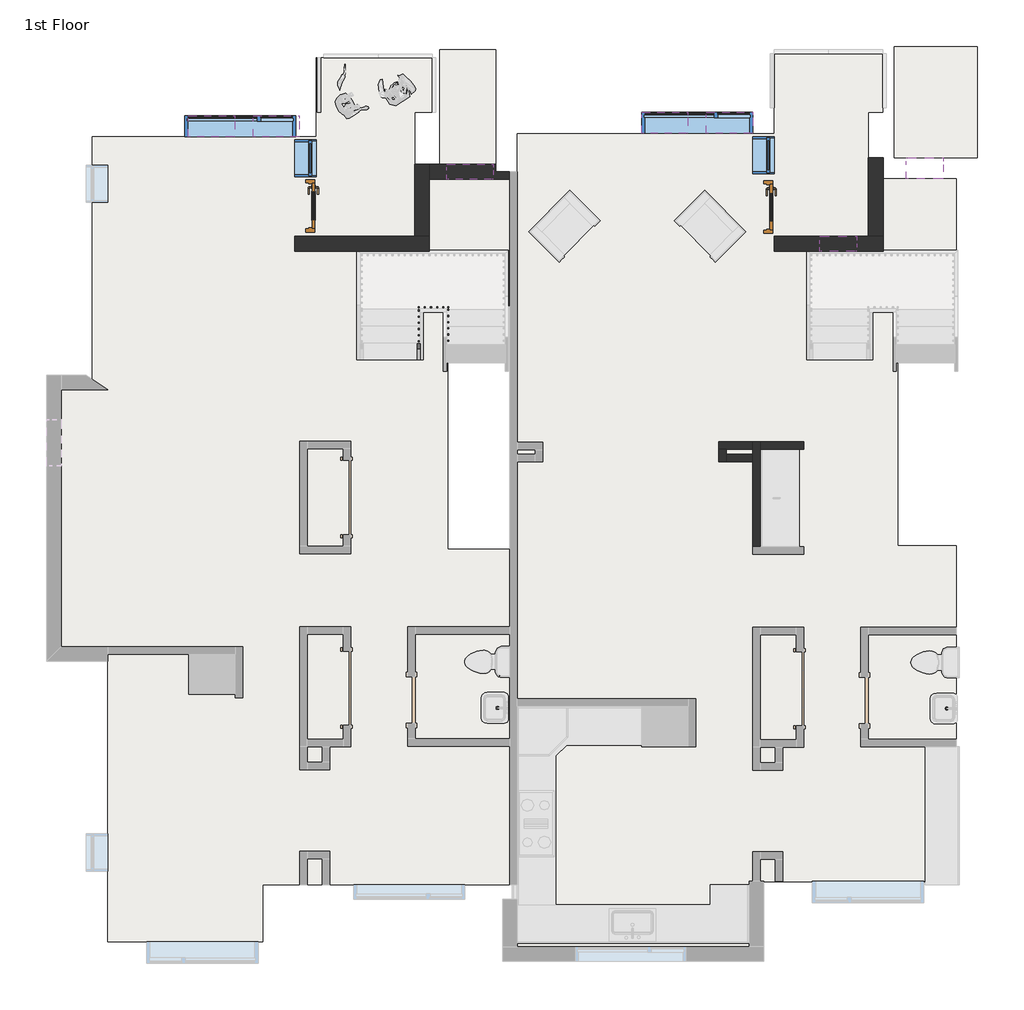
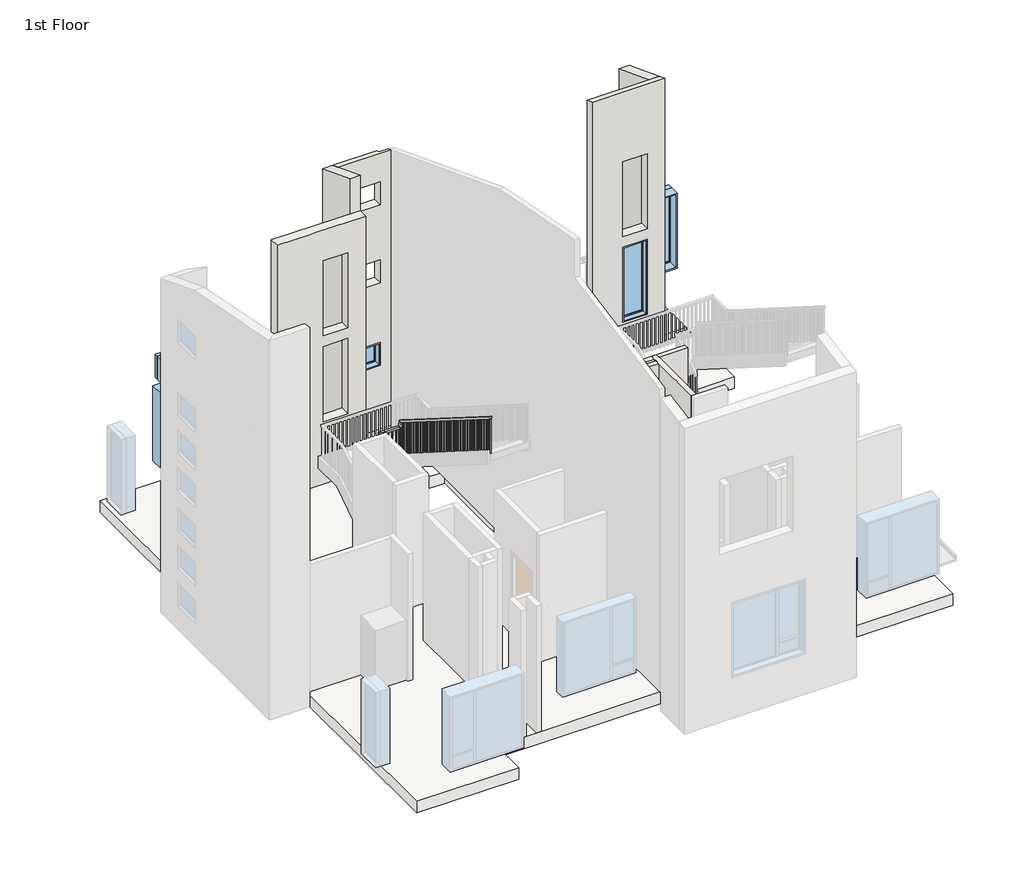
# One storey, part 2 of 6: 11 windows, 10 walls, 2 doors, 2 roofs, 1 railing, 1 slab.
"""IFC4 building model written with IfcOpenShell, lengths in millimetres."""

from ifc_helpers import new_model, si_unit, frame, origin, origin_with_axes, place, context, project, spatial, polyline, outline, extrude, faceted_brep, transform, mapped, element, save
from components import door_00adfaa7, window_8bf192ed, window_b6feeaa8, window_2f0d178e, window_b1c1038b, window_8c170f25, window_03925a3a, window_7b40078c

model = new_model("IFC4")

# Units and contexts
model_context = context("Model", 3, world=origin())
ifc_project = project(units=[si_unit("LENGTHUNIT", "METRE", prefix="MILLI")], contexts=[model_context])

# Site, building, storey
site = spatial("IfcSite", under=ifc_project)
building = spatial("IfcBuilding", under=site)
storey = spatial("IfcBuildingStorey", under=building, Name="1st Floor", Elevation=0.0)

# Doors
placement = place(None, origin())
door_shape = door_00adfaa7(model_context)
element("IfcDoor", 1, ObjectType="Door-Passage-Single-Full_Lite : 30\" x 84\"", at=placement, inside=storey, context=model_context, shape_type="MappedRepresentation", body=[
    mapped(door_shape, transform((2467.5053219, 5235.7563085, 0.0), x_axis=(0.0, -1.0, 0.0), y_axis=(1.0, 0.0, 0.0), z_axis=(0.0, 0.0, 1.0))),
])
element("IfcDoor", 2, ObjectType="Door-Passage-Single-Full_Lite : 30\" x 84\"", at=placement, inside=storey, context=model_context, shape_type="MappedRepresentation", body=[
    mapped(door_shape, transform((-5065.5821781, 5257.9813085, 0.0), x_axis=(0.0, -1.0, 0.0), y_axis=(1.0, 0.0, 0.0), z_axis=(0.0, 0.0, 1.0))),
])

# Railing
element("IfcRailing", 3, ObjectType="Handrail - Rectangular", at=placement, inside=storey, context=model_context, shape_type="SolidModel", body=[
    faceted_brep([(-3224.3663287, 2721.6563085, 1090.8631579), (-3224.3663287, 2721.6563085, 1030.7795781), (-3173.5663287, 2721.6563085, 1030.7795781), (-3173.5663287, 2721.6563085, 1090.8631579), (-3224.3663287, 3483.6563085, 1572.1263158), (-3224.3663287, 3534.4563085, 1544.1269465), (-3173.5663287, 3534.4563085, 1544.1269465), (-3173.5663287, 3483.6563085, 1572.1263158), (-3224.3663287, 3483.6563085, 1620.2526316), (-3224.3663287, 3534.4563085, 1569.4526316), (-3173.5663287, 3534.4563085, 1569.4526316), (-3173.5663287, 3483.6563085, 1620.2526316), (-3224.3663287, 3610.6563085, 1620.2526316), (-3224.3663287, 3610.6563085, 1569.4526316), (-3173.5663287, 3559.8563085, 1569.4526316), (-3173.5663287, 3559.8563085, 1620.2526316), (-3097.3663287, 3610.6563085, 1620.2526316), (-3097.3663287, 3610.6563085, 1569.4526316), (-3097.3663287, 3559.8563085, 1569.4526316), (-3097.3663287, 3559.8563085, 1620.2526316), (-2688.9571781, 3610.6563085, 1620.2526316), (-2688.9571781, 3559.8563085, 1620.2526316), (-2688.9571781, 3559.8563085, 1569.4526316), (-2688.9571781, 3610.6563085, 1569.4526316)], [[[0, 1, 2, 3]], [[1, 0, 4, 5]], [[2, 1, 5, 6]], [[3, 2, 6, 7]], [[0, 3, 7, 4]], [[5, 4, 8, 9]], [[6, 5, 9, 10]], [[7, 6, 10, 11]], [[4, 7, 11, 8]], [[9, 8, 12, 13]], [[10, 9, 13, 14]], [[11, 10, 14, 15]], [[8, 11, 15, 12]], [[13, 12, 16, 17]], [[14, 13, 17, 18]], [[15, 14, 18, 19]], [[12, 15, 19, 16]], [[20, 21, 22, 23]], [[17, 16, 20, 23]], [[18, 17, 23, 22]], [[19, 18, 22, 21]], [[16, 19, 21, 20]]]),
    faceted_brep([(-2688.9571781, 3585.2563085, 1620.2526316), (-2688.9571781, 3535.6297104, 1609.3971833), (-2739.7571781, 3535.6297104, 1609.3971833), (-2739.7571781, 3585.2563085, 1620.2526316), (-2688.9571781, 3546.6563085, 1796.7157895), (-2688.9571781, 3501.5690485, 1765.1083739), (-2739.7571781, 3501.5690485, 1765.1083739), (-2739.7571781, 3546.6563085, 1796.7157895), (-2688.9571781, -364.9436915, 4267.2), (-2739.7571781, -364.9436915, 4267.2), (-2739.7571781, -364.9436915, 4207.1164202), (-2688.9571781, -364.9436915, 4207.1164202)], [[[0, 1, 2, 3]], [[1, 0, 4, 5]], [[2, 1, 5, 6]], [[3, 2, 6, 7]], [[0, 3, 7, 4]], [[8, 9, 10, 11]], [[5, 4, 8, 11]], [[6, 5, 11, 10]], [[7, 6, 10, 9]], [[4, 7, 9, 8]]]),
    extrude(outline(polyline([(-323.6686915, 4181.0479991), (-304.6186915, 4169.0164202), (-304.6186915, 3176.3368421), (-323.6686915, 3176.3368421), (-323.6686915, 4181.0479991)])), frame((-2723.8821781, 0.0, 0.0), z_axis=(1.0, 0.0, 0.0), x_axis=(0.0, 1.0, 0.0)), (0.0, 0.0, 1.0), 19.05),
    extrude(outline(polyline([(-222.0686915, 4116.8795781), (-203.0186915, 4104.8479991), (-203.0186915, 3176.3368421), (-222.0686915, 3176.3368421), (-222.0686915, 4116.8795781)])), frame((-2723.8821781, 0.0, 0.0), z_axis=(1.0, 0.0, 0.0), x_axis=(0.0, 1.0, 0.0)), (0.0, 0.0, 1.0), 19.05),
    extrude(outline(polyline([(-120.4686915, 4052.711157), (-101.4186915, 4040.6795781), (-101.4186915, 3176.3368421), (-120.4686915, 3176.3368421), (-120.4686915, 4052.711157)])), frame((-2723.8821781, 0.0, 0.0), z_axis=(1.0, 0.0, 0.0), x_axis=(0.0, 1.0, 0.0)), (0.0, 0.0, 1.0), 19.05),
    extrude(outline(polyline([(-18.8686915, 3988.542736), (0.1813085, 3976.511157), (0.1813085, 2999.8736842), (-18.8686915, 2999.8736842), (-18.8686915, 3988.542736)])), frame((-2723.8821781, 0.0, 0.0), z_axis=(1.0, 0.0, 0.0), x_axis=(0.0, 1.0, 0.0)), (0.0, 0.0, 1.0), 19.05),
    extrude(outline(polyline([(82.7313085, 3924.3743149), (101.7813085, 3912.342736), (101.7813085, 2999.8736842), (82.7313085, 2999.8736842), (82.7313085, 3924.3743149)])), frame((-2723.8821781, 0.0, 0.0), z_axis=(1.0, 0.0, 0.0), x_axis=(0.0, 1.0, 0.0)), (0.0, 0.0, 1.0), 19.05),
    extrude(outline(polyline([(184.3313085, 3860.2058939), (203.3813085, 3848.1743149), (203.3813085, 2999.8736842), (184.3313085, 2999.8736842), (184.3313085, 3860.2058939)])), frame((-2723.8821781, 0.0, 0.0), z_axis=(1.0, 0.0, 0.0), x_axis=(0.0, 1.0, 0.0)), (0.0, 0.0, 1.0), 19.05),
    extrude(outline(polyline([(285.9313085, 3796.0374728), (304.9813085, 3784.0058939), (304.9813085, 2823.4105263), (285.9313085, 2823.4105263), (285.9313085, 3796.0374728)])), frame((-2723.8821781, 0.0, 0.0), z_axis=(1.0, 0.0, 0.0), x_axis=(0.0, 1.0, 0.0)), (0.0, 0.0, 1.0), 19.05),
    extrude(outline(polyline([(387.5313085, 3731.8690517), (406.5813085, 3719.8374728), (406.5813085, 2823.4105263), (387.5313085, 2823.4105263), (387.5313085, 3731.8690517)])), frame((-2723.8821781, 0.0, 0.0), z_axis=(1.0, 0.0, 0.0), x_axis=(0.0, 1.0, 0.0)), (0.0, 0.0, 1.0), 19.05),
    extrude(outline(polyline([(489.1313085, 3667.7006307), (508.1813085, 3655.6690517), (508.1813085, 2646.9473684), (489.1313085, 2646.9473684), (489.1313085, 3667.7006307)])), frame((-2723.8821781, 0.0, 0.0), z_axis=(1.0, 0.0, 0.0), x_axis=(0.0, 1.0, 0.0)), (0.0, 0.0, 1.0), 19.05),
    extrude(outline(polyline([(590.7313085, 3603.5322096), (609.7813085, 3591.5006307), (609.7813085, 2646.9473684), (590.7313085, 2646.9473684), (590.7313085, 3603.5322096)])), frame((-2723.8821781, 0.0, 0.0), z_axis=(1.0, 0.0, 0.0), x_axis=(0.0, 1.0, 0.0)), (0.0, 0.0, 1.0), 19.05),
    extrude(outline(polyline([(692.3313085, 3539.3637886), (711.3813085, 3527.3322096), (711.3813085, 2646.9473684), (692.3313085, 2646.9473684), (692.3313085, 3539.3637886)])), frame((-2723.8821781, 0.0, 0.0), z_axis=(1.0, 0.0, 0.0), x_axis=(0.0, 1.0, 0.0)), (0.0, 0.0, 1.0), 19.05),
    extrude(outline(polyline([(793.9313085, 3475.1953675), (812.9813085, 3463.1637886), (812.9813085, 2470.4842105), (793.9313085, 2470.4842105), (793.9313085, 3475.1953675)])), frame((-2723.8821781, 0.0, 0.0), z_axis=(1.0, 0.0, 0.0), x_axis=(0.0, 1.0, 0.0)), (0.0, 0.0, 1.0), 19.05),
    extrude(outline(polyline([(895.5313085, 3411.0269465), (914.5813085, 3398.9953675), (914.5813085, 2470.4842105), (895.5313085, 2470.4842105), (895.5313085, 3411.0269465)])), frame((-2723.8821781, 0.0, 0.0), z_axis=(1.0, 0.0, 0.0), x_axis=(0.0, 1.0, 0.0)), (0.0, 0.0, 1.0), 19.05),
    extrude(outline(polyline([(997.1313085, 3346.8585254), (1016.1813085, 3334.8269465), (1016.1813085, 2470.4842105), (997.1313085, 2470.4842105), (997.1313085, 3346.8585254)])), frame((-2723.8821781, 0.0, 0.0), z_axis=(1.0, 0.0, 0.0), x_axis=(0.0, 1.0, 0.0)), (0.0, 0.0, 1.0), 19.05),
    extrude(outline(polyline([(1098.7313085, 3282.6901044), (1117.7813085, 3270.6585254), (1117.7813085, 2294.0210526), (1098.7313085, 2294.0210526), (1098.7313085, 3282.6901044)])), frame((-2723.8821781, 0.0, 0.0), z_axis=(1.0, 0.0, 0.0), x_axis=(0.0, 1.0, 0.0)), (0.0, 0.0, 1.0), 19.05),
    extrude(outline(polyline([(1200.3313085, 3218.5216833), (1219.3813085, 3206.4901044), (1219.3813085, 2294.0210526), (1200.3313085, 2294.0210526), (1200.3313085, 3218.5216833)])), frame((-2723.8821781, 0.0, 0.0), z_axis=(1.0, 0.0, 0.0), x_axis=(0.0, 1.0, 0.0)), (0.0, 0.0, 1.0), 19.05),
    extrude(outline(polyline([(1301.9313085, 3154.3532623), (1320.9813085, 3142.3216833), (1320.9813085, 2294.0210526), (1301.9313085, 2294.0210526), (1301.9313085, 3154.3532623)])), frame((-2723.8821781, 0.0, 0.0), z_axis=(1.0, 0.0, 0.0), x_axis=(0.0, 1.0, 0.0)), (0.0, 0.0, 1.0), 19.05),
    extrude(outline(polyline([(1403.5313085, 3090.1848412), (1422.5813085, 3078.1532623), (1422.5813085, 2117.5578947), (1403.5313085, 2117.5578947), (1403.5313085, 3090.1848412)])), frame((-2723.8821781, 0.0, 0.0), z_axis=(1.0, 0.0, 0.0), x_axis=(0.0, 1.0, 0.0)), (0.0, 0.0, 1.0), 19.05),
    extrude(outline(polyline([(1505.1313085, 3026.0164202), (1524.1813085, 3013.9848412), (1524.1813085, 2117.5578947), (1505.1313085, 2117.5578947), (1505.1313085, 3026.0164202)])), frame((-2723.8821781, 0.0, 0.0), z_axis=(1.0, 0.0, 0.0), x_axis=(0.0, 1.0, 0.0)), (0.0, 0.0, 1.0), 19.05),
    extrude(outline(polyline([(1606.7313085, 2961.8479991), (1625.7813085, 2949.8164202), (1625.7813085, 1941.0947368), (1606.7313085, 1941.0947368), (1606.7313085, 2961.8479991)])), frame((-2723.8821781, 0.0, 0.0), z_axis=(1.0, 0.0, 0.0), x_axis=(0.0, 1.0, 0.0)), (0.0, 0.0, 1.0), 19.05),
    extrude(outline(polyline([(1708.3313085, 2897.6795781), (1727.3813085, 2885.6479991), (1727.3813085, 1941.0947368), (1708.3313085, 1941.0947368), (1708.3313085, 2897.6795781)])), frame((-2723.8821781, 0.0, 0.0), z_axis=(1.0, 0.0, 0.0), x_axis=(0.0, 1.0, 0.0)), (0.0, 0.0, 1.0), 19.05),
    extrude(outline(polyline([(1809.9313085, 2833.511157), (1828.9813085, 2821.4795781), (1828.9813085, 1941.0947368), (1809.9313085, 1941.0947368), (1809.9313085, 2833.511157)])), frame((-2723.8821781, 0.0, 0.0), z_axis=(1.0, 0.0, 0.0), x_axis=(0.0, 1.0, 0.0)), (0.0, 0.0, 1.0), 19.05),
    extrude(outline(polyline([(1911.5313085, 2769.342736), (1930.5813085, 2757.311157), (1930.5813085, 1764.6315789), (1911.5313085, 1764.6315789), (1911.5313085, 2769.342736)])), frame((-2723.8821781, 0.0, 0.0), z_axis=(1.0, 0.0, 0.0), x_axis=(0.0, 1.0, 0.0)), (0.0, 0.0, 1.0), 19.05),
    extrude(outline(polyline([(2013.1313085, 2705.1743149), (2032.1813085, 2693.142736), (2032.1813085, 1764.6315789), (2013.1313085, 1764.6315789), (2013.1313085, 2705.1743149)])), frame((-2723.8821781, 0.0, 0.0), z_axis=(1.0, 0.0, 0.0), x_axis=(0.0, 1.0, 0.0)), (0.0, 0.0, 1.0), 19.05),
    extrude(outline(polyline([(2114.7313085, 2641.0058939), (2133.7813085, 2628.9743149), (2133.7813085, 1764.6315789), (2114.7313085, 1764.6315789), (2114.7313085, 2641.0058939)])), frame((-2723.8821781, 0.0, 0.0), z_axis=(1.0, 0.0, 0.0), x_axis=(0.0, 1.0, 0.0)), (0.0, 0.0, 1.0), 19.05),
    extrude(outline(polyline([(2216.3313085, 2576.8374728), (2235.3813085, 2564.8058939), (2235.3813085, 1588.1684211), (2216.3313085, 1588.1684211), (2216.3313085, 2576.8374728)])), frame((-2723.8821781, 0.0, 0.0), z_axis=(1.0, 0.0, 0.0), x_axis=(0.0, 1.0, 0.0)), (0.0, 0.0, 1.0), 19.05),
    extrude(outline(polyline([(2317.9313085, 2512.6690517), (2336.9813085, 2500.6374728), (2336.9813085, 1588.1684211), (2317.9313085, 1588.1684211), (2317.9313085, 2512.6690517)])), frame((-2723.8821781, 0.0, 0.0), z_axis=(1.0, 0.0, 0.0), x_axis=(0.0, 1.0, 0.0)), (0.0, 0.0, 1.0), 19.05),
    extrude(outline(polyline([(2419.5313085, 2448.5006307), (2438.5813085, 2436.4690517), (2438.5813085, 1588.1684211), (2419.5313085, 1588.1684211), (2419.5313085, 2448.5006307)])), frame((-2723.8821781, 0.0, 0.0), z_axis=(1.0, 0.0, 0.0), x_axis=(0.0, 1.0, 0.0)), (0.0, 0.0, 1.0), 19.05),
    extrude(outline(polyline([(2521.1313085, 2384.3322096), (2540.1813085, 2372.3006307), (2540.1813085, 1411.7052632), (2521.1313085, 1411.7052632), (2521.1313085, 2384.3322096)])), frame((-2723.8821781, 0.0, 0.0), z_axis=(1.0, 0.0, 0.0), x_axis=(0.0, 1.0, 0.0)), (0.0, 0.0, 1.0), 19.05),
    extrude(outline(polyline([(2622.7313085, 2320.1637886), (2641.7813085, 2308.1322096), (2641.7813085, 1411.7052632), (2622.7313085, 1411.7052632), (2622.7313085, 2320.1637886)])), frame((-2723.8821781, 0.0, 0.0), z_axis=(1.0, 0.0, 0.0), x_axis=(0.0, 1.0, 0.0)), (0.0, 0.0, 1.0), 19.05),
    extrude(outline(polyline([(2724.3313085, 2255.9953675), (2743.3813085, 2243.9637886), (2743.3813085, 1235.2421053), (2724.3313085, 1235.2421053), (2724.3313085, 2255.9953675)])), frame((-2723.8821781, 0.0, 0.0), z_axis=(1.0, 0.0, 0.0), x_axis=(0.0, 1.0, 0.0)), (0.0, 0.0, 1.0), 19.05),
    extrude(outline(polyline([(2825.9313085, 2191.8269465), (2844.9813085, 2179.7953675), (2844.9813085, 1235.2421053), (2825.9313085, 1235.2421053), (2825.9313085, 2191.8269465)])), frame((-2723.8821781, 0.0, 0.0), z_axis=(1.0, 0.0, 0.0), x_axis=(0.0, 1.0, 0.0)), (0.0, 0.0, 1.0), 19.05),
    extrude(outline(polyline([(2927.5313085, 2127.6585254), (2946.5813085, 2115.6269465), (2946.5813085, 1235.2421053), (2927.5313085, 1235.2421053), (2927.5313085, 2127.6585254)])), frame((-2723.8821781, 0.0, 0.0), z_axis=(1.0, 0.0, 0.0), x_axis=(0.0, 1.0, 0.0)), (0.0, 0.0, 1.0), 19.05),
    extrude(outline(polyline([(3029.1313085, 2063.4901044), (3048.1813085, 2051.4585254), (3048.1813085, 1058.7789474), (3029.1313085, 1058.7789474), (3029.1313085, 2063.4901044)])), frame((-2723.8821781, 0.0, 0.0), z_axis=(1.0, 0.0, 0.0), x_axis=(0.0, 1.0, 0.0)), (0.0, 0.0, 1.0), 19.05),
    extrude(outline(polyline([(3130.7313085, 1999.3216833), (3149.7813085, 1987.2901044), (3149.7813085, 1058.7789474), (3130.7313085, 1058.7789474), (3130.7313085, 1999.3216833)])), frame((-2723.8821781, 0.0, 0.0), z_axis=(1.0, 0.0, 0.0), x_axis=(0.0, 1.0, 0.0)), (0.0, 0.0, 1.0), 19.05),
    extrude(outline(polyline([(3232.3313085, 1935.1532623), (3251.3813085, 1923.1216833), (3251.3813085, 1058.7789474), (3232.3313085, 1058.7789474), (3232.3313085, 1935.1532623)])), frame((-2723.8821781, 0.0, 0.0), z_axis=(1.0, 0.0, 0.0), x_axis=(0.0, 1.0, 0.0)), (0.0, 0.0, 1.0), 19.05),
    extrude(outline(polyline([(3333.9313085, 1870.9848412), (3352.9813085, 1858.9532623), (3352.9813085, 882.3157895), (3333.9313085, 882.3157895), (3333.9313085, 1870.9848412)])), frame((-2723.8821781, 0.0, 0.0), z_axis=(1.0, 0.0, 0.0), x_axis=(0.0, 1.0, 0.0)), (0.0, 0.0, 1.0), 19.05),
    extrude(outline(polyline([(3435.5313085, 1806.8164202), (3454.5813085, 1794.7848412), (3454.5813085, 882.3157895), (3435.5313085, 882.3157895), (3435.5313085, 1806.8164202)])), frame((-2723.8821781, 0.0, 0.0), z_axis=(1.0, 0.0, 0.0), x_axis=(0.0, 1.0, 0.0)), (0.0, 0.0, 1.0), 19.05),
    extrude(outline(polyline([(-2802.0913287, 3575.7313085), (-2802.0913287, 3594.7813085), (-2783.0413287, 3594.7813085), (-2783.0413287, 3575.7313085), (-2802.0913287, 3575.7313085)])), frame((0.0, 0.0, 705.8526316), z_axis=(0.0, 0.0, 1.0), x_axis=(1.0, 0.0, 0.0)), (0.0, 0.0, 1.0), 863.6),
    extrude(outline(polyline([(-2903.6913287, 3575.7313085), (-2903.6913287, 3594.7813085), (-2884.6413287, 3594.7813085), (-2884.6413287, 3575.7313085), (-2903.6913287, 3575.7313085)])), frame((0.0, 0.0, 705.8526316), z_axis=(0.0, 0.0, 1.0), x_axis=(1.0, 0.0, 0.0)), (0.0, 0.0, 1.0), 863.6),
    extrude(outline(polyline([(-3005.2913287, 3575.7313085), (-3005.2913287, 3594.7813085), (-2986.2413287, 3594.7813085), (-2986.2413287, 3575.7313085), (-3005.2913287, 3575.7313085)])), frame((0.0, 0.0, 705.8526316), z_axis=(0.0, 0.0, 1.0), x_axis=(1.0, 0.0, 0.0)), (0.0, 0.0, 1.0), 863.6),
    extrude(outline(polyline([(-3106.8913287, 3575.7313085), (-3106.8913287, 3594.7813085), (-3087.8413287, 3594.7813085), (-3087.8413287, 3575.7313085), (-3106.8913287, 3575.7313085)])), frame((0.0, 0.0, 705.8526316), z_axis=(0.0, 0.0, 1.0), x_axis=(1.0, 0.0, 0.0)), (0.0, 0.0, 1.0), 863.6),
    extrude(outline(polyline([(-3189.4413287, 3524.9313085), (-3208.4913287, 3524.9313085), (-3208.4913287, 3543.9813085), (-3189.4413287, 3543.9813085), (-3189.4413287, 3524.9313085)])), frame((0.0, 0.0, 529.3894737), z_axis=(0.0, 0.0, 1.0), x_axis=(1.0, 0.0, 0.0)), (0.0, 0.0, 1.0), 1040.0631579),
    extrude(outline(polyline([(3423.3313085, 1473.942736), (3442.3813085, 1485.9743149), (3442.3813085, 529.3894737), (3423.3313085, 529.3894737), (3423.3313085, 1473.942736)])), frame((-3208.4913287, 0.0, 0.0), z_axis=(1.0, 0.0, 0.0), x_axis=(0.0, 1.0, 0.0)), (0.0, 0.0, 1.0), 19.05),
    extrude(outline(polyline([(3321.7313085, 1409.7743149), (3340.7813085, 1421.8058939), (3340.7813085, 529.3894737), (3321.7313085, 529.3894737), (3321.7313085, 1409.7743149)])), frame((-3208.4913287, 0.0, 0.0), z_axis=(1.0, 0.0, 0.0), x_axis=(0.0, 1.0, 0.0)), (0.0, 0.0, 1.0), 19.05),
    extrude(outline(polyline([(3220.1313085, 1345.6058939), (3239.1813085, 1357.6374728), (3239.1813085, 352.9263158), (3220.1313085, 352.9263158), (3220.1313085, 1345.6058939)])), frame((-3208.4913287, 0.0, 0.0), z_axis=(1.0, 0.0, 0.0), x_axis=(0.0, 1.0, 0.0)), (0.0, 0.0, 1.0), 19.05),
    extrude(outline(polyline([(3118.5313085, 1281.4374728), (3137.5813085, 1293.4690517), (3137.5813085, 352.9263158), (3118.5313085, 352.9263158), (3118.5313085, 1281.4374728)])), frame((-3208.4913287, 0.0, 0.0), z_axis=(1.0, 0.0, 0.0), x_axis=(0.0, 1.0, 0.0)), (0.0, 0.0, 1.0), 19.05),
    extrude(outline(polyline([(3016.9313085, 1217.2690517), (3035.9813085, 1229.3006307), (3035.9813085, 352.9263158), (3016.9313085, 352.9263158), (3016.9313085, 1217.2690517)])), frame((-3208.4913287, 0.0, 0.0), z_axis=(1.0, 0.0, 0.0), x_axis=(0.0, 1.0, 0.0)), (0.0, 0.0, 1.0), 19.05),
    extrude(outline(polyline([(2915.3313085, 1153.1006307), (2934.3813085, 1165.1322096), (2934.3813085, 176.4631579), (2915.3313085, 176.4631579), (2915.3313085, 1153.1006307)])), frame((-3208.4913287, 0.0, 0.0), z_axis=(1.0, 0.0, 0.0), x_axis=(0.0, 1.0, 0.0)), (0.0, 0.0, 1.0), 19.05),
    extrude(outline(polyline([(2813.7313085, 1088.9322096), (2832.7813085, 1100.9637886), (2832.7813085, 176.4631579), (2813.7313085, 176.4631579), (2813.7313085, 1088.9322096)])), frame((-3208.4913287, 0.0, 0.0), z_axis=(1.0, 0.0, 0.0), x_axis=(0.0, 1.0, 0.0)), (0.0, 0.0, 1.0), 19.05),
    extrude(outline(polyline([(3537.1313085, 1602.5325007), (3556.1813085, 1515.4438178), (3556.1813085, 705.8526316), (3537.1313085, 705.8526316), (3537.1313085, 1602.5325007)])), frame((-2723.8821781, 0.0, 0.0), z_axis=(1.0, 0.0, 0.0), x_axis=(0.0, 1.0, 0.0)), (0.0, 0.0, 1.0), 19.05),
    extrude(outline(polyline([(-2723.8821781, 3575.7313085), (-2723.8821781, 3594.7813085), (-2704.8321781, 3594.7813085), (-2704.8321781, 3575.7313085), (-2723.8821781, 3575.7313085)])), frame((0.0, 0.0, 705.8526316), z_axis=(0.0, 0.0, 1.0), x_axis=(1.0, 0.0, 0.0)), (0.0, 0.0, 1.0), 863.6),
    extrude(outline(polyline([(-3189.4413287, 3575.7313085), (-3208.4913287, 3575.7313085), (-3208.4913287, 3594.7813085), (-3189.4413287, 3594.7813085), (-3189.4413287, 3575.7313085)])), frame((0.0, 0.0, 705.8526316), z_axis=(0.0, 0.0, 1.0), x_axis=(1.0, 0.0, 0.0)), (0.0, 0.0, 1.0), 863.6),
    extrude(outline(polyline([(-364.9436915, 4207.1164202), (-345.8936915, 4195.0848412), (-345.8936915, 3176.3368421), (-364.9436915, 3176.3368421), (-364.9436915, 4207.1164202)])), frame((-2723.8821781, 0.0, 0.0), z_axis=(1.0, 0.0, 0.0), x_axis=(0.0, 1.0, 0.0)), (0.0, 0.0, 1.0), 19.05),
    extrude(outline(polyline([(2721.6563085, 1030.7795781), (2740.7063085, 1042.811157), (2740.7063085, 176.4631579), (2721.6563085, 176.4631579), (2721.6563085, 1030.7795781)])), frame((-3208.4913287, 0.0, 0.0), z_axis=(1.0, 0.0, 0.0), x_axis=(0.0, 1.0, 0.0)), (0.0, 0.0, 1.0), 19.05),
])

# Roofs
element("IfcRoof", 4, ObjectType="Generic - 12\"", at=placement, inside=storey, context=model_context, shape_type="SweptSolid", body=[
    extrude(outline(polyline([(5995.0780789, 7877.8813085), (5995.0780789, 6051.0812973), (4622.3681157, 6051.0812973), (4622.3681157, 7877.8813085), (5995.0780789, 7877.8813085)])), frame((0.0, 0.0, -762.0), z_axis=(0.0, 0.0, 1.0), x_axis=(1.0, 0.0, 0.0)), (0.0, 0.0, 1.0), 304.8),
])
element("IfcRoof", 5, ObjectType="Generic - 12\"", at=placement, inside=storey, context=model_context, shape_type="SweptSolid", body=[
    extrude(outline(polyline([(-1928.5446781, 7822.3188085), (-1928.5446781, 5938.3687973), (-2852.9735601, 5938.3687973), (-2852.9735601, 7822.3188085), (-1928.5446781, 7822.3188085)])), frame((0.0, 0.0, -762.0), z_axis=(0.0, 0.0, 1.0), x_axis=(1.0, 0.0, 0.0)), (0.0, 0.0, 1.0), 304.8),
])

# Slab
element("IfcSlab", 6, ObjectType="Generic - 12\"", at=placement, inside=storey, context=model_context, shape_type="Brep", body=[
    faceted_brep([(-4883.0196781, 6389.4938085, -304.8), (-4883.0196781, 7689.6125585, -304.8), (-2974.5886971, 7689.6125585, -304.8), (-2974.5886971, 6797.6813085, -304.8), (-3266.2735601, 6797.6813085, -304.8), (-3266.2735601, 5697.0687973, -304.8), (-1576.1196781, 5697.0687973, -304.8), (-1576.1196781, 6447.0188085, -304.8), (2650.0678219, 6447.0188085, -304.8), (2650.0678219, 7819.5812973, -304.8), (4438.9264399, 7819.5812973, -304.8), (4438.9264399, 6797.6813085, -304.8), (4200.8014399, 6797.6813085, -304.8), (4200.8014399, 5698.6562973, -304.8), (5642.6530789, 5698.6562973, -304.8), (5642.6530789, 3572.0563085, -304.8), (4682.2155789, 3572.0563085, -304.8), (4682.2155789, -337.0811915, -304.8), (5642.6530789, -337.0811915, -304.8), (5642.6530789, -5861.4671456, -304.8), (2236.5178219, -5861.4671456, -304.8), (2236.5178219, -6933.9311915, -304.8), (-1576.1196784, -6933.9311915, -304.8), (-1576.1196779, -5913.8546456, -304.8), (-5765.8946781, -5913.8546456, -304.8), (-5765.8946781, -6854.1186915, -304.8), (-8312.2446781, -6854.1186915, -304.8), (-8312.2446781, -1997.5436915, -304.8), (-8664.6696781, -1997.5436915, -304.8), (-9080.4946781, -1997.5436915, -304.8), (-9080.4946781, 2230.7574206, -304.8), (-8664.6696781, 2230.7574206, -304.8), (-8566.5821781, 2230.7574206, -304.8), (-8566.5821781, 6389.4938085, -304.8), (-8312.2446781, 6389.4938085, -304.8), (-2715.9446781, -384.9686915, -304.8), (-1576.1196781, -384.9686915, -304.8), (-1576.1196781, 3603.8062973, -304.8), (-2715.9446781, 3603.8062973, -304.8), (-4883.0196781, 6389.4938085, 0.0), (-8312.2446781, 6389.4938085, 0.0), (-8566.5821781, 6389.4938085, 0.0), (-8566.5821781, 2404.8984116, 0.0), (-8566.5821781, 2230.7574206, 0.0), (-9080.4946781, 2230.7574206, 0.0), (-9080.4946781, -1997.5436915, 0.0), (-8312.2446781, -1997.5436915, 0.0), (-8312.2446781, -6854.1186915, 0.0), (-5765.8946781, -6854.1186915, 0.0), (-5765.8946781, -5913.8546456, 0.0), (-1576.1196779, -5913.8546456, 0.0), (-1576.1196784, -6933.9311915, 0.0), (2236.5178219, -6933.9311915, 0.0), (2236.5178219, -5861.4671456, 0.0), (5642.6530789, -5861.4671456, 0.0), (5642.6530789, -337.0811915, 0.0), (4682.2155789, -337.0811915, 0.0), (4682.2155789, 3572.0563085, 0.0), (5642.6530789, 3572.0563085, 0.0), (5642.6530789, 5698.6562973, 0.0), (4200.8014399, 5698.6562973, 0.0), (4200.8014399, 6797.6813085, 0.0), (4438.9264399, 6797.6813085, 0.0), (4438.9264399, 7819.5812973, 0.0), (2650.0678219, 7819.5812973, 0.0), (2650.0678219, 6447.0188085, 0.0), (-1576.1196781, 6447.0188085, 0.0), (-1576.1196781, 5697.0687973, 0.0), (-3266.2735601, 5697.0687973, 0.0), (-3266.2735601, 6797.6813085, 0.0), (-2974.5886971, 6797.6813085, 0.0), (-2974.5886971, 7689.6125585, 0.0), (-4883.0196781, 7689.6125585, 0.0), (-2715.9446781, -384.9686915, 0.0), (-2715.9446781, 3603.8062973, 0.0), (-1576.1196781, 3603.8062973, 0.0), (-1576.1196781, -384.9686915, 0.0), (-8312.2446781, -1997.5436915, -28.575), (-8566.5821781, 2230.7574206, -28.575)], [[[0, 1, 2, 3, 4, 5, 6, 7, 8, 9, 10, 11, 12, 13, 14, 15, 16, 17, 18, 19, 20, 21, 22, 23, 24, 25, 26, 27, 28, 29, 30, 31, 32, 33, 34], [35, 36, 37, 38]], [[39, 40, 41, 42, 43, 44, 45, 46, 47, 48, 49, 50, 51, 52, 53, 54, 55, 56, 57, 58, 59, 60, 61, 62, 63, 64, 65, 66, 67, 68, 69, 70, 71, 72], [73, 74, 75, 76]], [[1, 0, 39, 72]], [[2, 1, 72, 71]], [[3, 2, 71, 70]], [[4, 3, 70, 69]], [[5, 4, 69, 68]], [[6, 5, 68, 67]], [[7, 6, 67, 66]], [[8, 7, 66, 65]], [[9, 8, 65, 64]], [[10, 9, 64, 63]], [[11, 10, 63, 62]], [[12, 11, 62, 61]], [[13, 12, 61, 60]], [[14, 13, 60, 59]], [[15, 14, 59, 58]], [[16, 15, 58, 57]], [[17, 16, 57, 56]], [[18, 17, 56, 55]], [[19, 18, 55, 54]], [[20, 19, 54, 53]], [[21, 20, 53, 52]], [[22, 21, 52, 51]], [[23, 22, 51, 50]], [[24, 23, 50, 49]], [[25, 24, 49, 48]], [[26, 25, 48, 47]], [[27, 26, 47, 46, 77]], [[29, 28, 27, 77, 46, 45]], [[30, 29, 45, 44]], [[32, 31, 30, 44, 43, 78]], [[33, 32, 78, 43, 42, 41]], [[0, 34, 33, 41, 40, 39]], [[36, 35, 73, 76]], [[37, 36, 76, 75]], [[38, 37, 75, 74]], [[35, 38, 74, 73]]]),
])

# Walls
element("IfcWall", 7, ObjectType="Exterior - Stucco", at=placement, inside=storey, context=model_context, shape_type="Brep", body=[
    faceted_brep([(-5235.4446781, 4511.8563085, 6705.6), (-4418.7969211, 4511.8563085, 6705.6), (-4294.9719211, 4511.8563085, 6705.6), (-3024.9735601, 4511.8563085, 6705.6), (-3024.9735601, 4753.1563085, 6705.6), (-5235.4446781, 4753.1563085, 6705.6), (-3024.9735601, 4753.1563085, 0.0), (-3266.2735601, 4753.1563085, 0.0), (-5235.4446781, 4753.1563085, 0.0), (-3471.0610601, 4753.1563085, 1651.0), (-3471.0610601, 4753.1563085, 3632.2), (-4080.6610601, 4753.1563085, 3632.2), (-4080.6610601, 4753.1563085, 1651.0), (-3471.0610601, 4753.1563085, 5892.8), (-4080.6610601, 4753.1563085, 5892.8), (-4080.6610601, 4753.1563085, 3911.6), (-3471.0610601, 4753.1563085, 3911.6), (-5235.4446781, 4511.8563085, 0.0), (-3024.9735601, 4511.8563085, 0.0), (-3471.0610601, 4511.8563085, 3632.2), (-3471.0610601, 4511.8563085, 1651.0), (-4080.6610601, 4511.8563085, 1651.0), (-4080.6610601, 4511.8563085, 3632.2), (-3471.0610601, 4511.8563085, 5892.8), (-3471.0610601, 4511.8563085, 3911.6), (-4080.6610601, 4511.8563085, 3911.6), (-4080.6610601, 4511.8563085, 5892.8)], [[[0, 1, 2, 3, 4, 5]], [[6, 7, 8, 5, 4], [9, 10, 11, 12], [13, 14, 15, 16]], [[17, 18, 3, 2, 1, 0], [19, 20, 21, 22], [23, 24, 25, 26]], [[18, 17, 8, 7, 6]], [[3, 18, 6, 4]], [[17, 0, 5, 8]], [[19, 10, 9, 20]], [[20, 9, 12, 21]], [[21, 12, 11, 22]], [[10, 19, 22, 11]], [[24, 23, 13, 16]], [[25, 24, 16, 15]], [[26, 25, 15, 14]], [[23, 26, 14, 13]]]),
])
element("IfcWall", 8, ObjectType="Exterior - Stucco", at=placement, inside=storey, context=model_context, shape_type="Brep", body=[
    faceted_brep([(-3024.9735601, 4753.1563085, 0.0), (-3024.9735601, 5697.0687973, 0.0), (-3024.9735601, 5938.3687973, 0.0), (-3024.9735601, 5938.3687973, 7177.3038799), (-3024.9735601, 5697.0687973, 7270.1976451), (-3024.9735601, 4753.1563085, 7633.5776082), (-3024.9735601, 4753.1563085, 6705.6), (-3266.2735601, 4753.1563085, 0.0), (-3266.2735601, 4753.1563085, 7633.5776082), (-3266.2735601, 5938.3687973, 7177.3038799), (-3266.2735601, 5938.3687973, 0.0)], [[[0, 1, 2, 3, 4, 5, 6]], [[7, 8, 9, 10]], [[2, 1, 0, 7, 10]], [[3, 2, 10, 9]], [[0, 6, 5, 8, 7]], [[5, 4, 3, 9, 8]]]),
])
element("IfcWall", 9, ObjectType="Exterior - Stucco", at=placement, inside=storey, context=model_context, shape_type="Brep", body=[
    faceted_brep([(-1928.5446781, 5938.3687973, 0.0), (-3024.9735601, 5938.3687973, 0.0), (-3024.9735601, 5938.3687973, 7177.3038799), (-1928.5446781, 5938.3687973, 7177.3038799), (-1974.5821781, 5938.3687973, 5918.2), (-1974.5821781, 5938.3687973, 6527.8), (-2736.5821781, 5938.3687973, 6527.8), (-2736.5821781, 5938.3687973, 5918.2), (-1974.5821781, 5938.3687973, 4470.4), (-2736.5821781, 5938.3687973, 4470.4), (-2736.5821781, 5938.3687973, 3860.8), (-1974.5821781, 5938.3687973, 3860.8), (-1974.5821781, 5938.3687973, 2286.0), (-2736.5821781, 5938.3687973, 2286.0), (-2736.5821781, 5938.3687973, 1676.4), (-1974.5821781, 5938.3687973, 1676.4), (-3024.9735601, 5697.0687973, 0.0), (-1699.9446781, 5697.0687973, 0.0), (-1699.9446781, 5697.0687973, 7270.1976451), (-3024.9735601, 5697.0687973, 7270.1976451), (-1974.5821781, 5697.0687973, 6527.8), (-1974.5821781, 5697.0687973, 5918.2), (-2736.5821781, 5697.0687973, 5918.2), (-2736.5821781, 5697.0687973, 6527.8), (-1974.5821781, 5697.0687973, 4470.4), (-1974.5821781, 5697.0687973, 3860.8), (-2736.5821781, 5697.0687973, 3860.8), (-2736.5821781, 5697.0687973, 4470.4), (-1974.5821781, 5697.0687973, 2286.0), (-1974.5821781, 5697.0687973, 1676.4), (-2736.5821781, 5697.0687973, 1676.4), (-2736.5821781, 5697.0687973, 2286.0), (-1928.5446781, 5817.7187973, 0.0), (-1699.9446781, 5817.7187973, 0.0), (-1699.9446781, 5817.7187973, 7223.7507625), (-1928.5446781, 5817.7187973, 7223.7507625)], [[[0, 1, 2, 3], [4, 5, 6, 7], [8, 9, 10, 11], [12, 13, 14, 15]], [[16, 17, 18, 19], [20, 21, 22, 23], [24, 25, 26, 27], [28, 29, 30, 31]], [[17, 16, 1, 0, 32, 33]], [[16, 19, 2, 1]], [[19, 18, 34, 35, 3, 2]], [[18, 17, 33, 34]], [[33, 32, 35, 34]], [[0, 3, 35, 32]], [[20, 5, 4, 21]], [[21, 4, 7, 22]], [[22, 7, 6, 23]], [[5, 20, 23, 6]], [[25, 24, 8, 11]], [[26, 25, 11, 10]], [[27, 26, 10, 9]], [[24, 27, 9, 8]], [[29, 28, 12, 15]], [[30, 29, 15, 14]], [[31, 30, 14, 13]], [[28, 31, 13, 12]]]),
])
element("IfcWall", 10, ObjectType="Exterior - Stucco", at=placement, inside=storey, context=model_context, shape_type="Brep", body=[
    faceted_brep([(2650.0678219, 4753.1563085, 0.0), (2650.0678219, 4753.1563085, 7633.5776082), (4200.8014399, 4753.1563085, 7633.5776082), (4442.1014399, 4753.1563085, 7633.5776082), (4442.1014399, 4753.1563085, 0.0), (4200.8014399, 4753.1563085, 0.0), (4007.1264399, 4753.1563085, 5892.8), (3397.5264399, 4753.1563085, 5892.8), (3397.5264399, 4753.1563085, 3911.6), (4007.1264399, 4753.1563085, 3911.6), (4007.1264399, 4753.1563085, 3632.2), (3397.5264399, 4753.1563085, 3632.2), (3397.5264399, 4753.1563085, 1651.0), (4007.1264399, 4753.1563085, 1651.0), (2650.0678219, 4511.8563085, 0.0), (4442.1014399, 4511.8563085, 0.0), (4442.1014399, 4511.8563085, 7726.4713734), (2650.0678219, 4511.8563085, 7726.4713734), (4007.1264399, 4511.8563085, 5892.8), (4007.1264399, 4511.8563085, 3911.6), (3397.5264399, 4511.8563085, 3911.6), (3397.5264399, 4511.8563085, 5892.8), (4007.1264399, 4511.8563085, 3632.2), (4007.1264399, 4511.8563085, 1651.0), (3397.5264399, 4511.8563085, 1651.0), (3397.5264399, 4511.8563085, 3632.2)], [[[0, 1, 2, 3, 4, 5], [6, 7, 8, 9], [10, 11, 12, 13]], [[14, 15, 16, 17], [18, 19, 20, 21], [22, 23, 24, 25]], [[15, 14, 0, 5, 4]], [[16, 15, 4, 3]], [[17, 16, 3, 2, 1]], [[14, 17, 1, 0]], [[19, 18, 6, 9]], [[20, 19, 9, 8]], [[21, 20, 8, 7]], [[18, 21, 7, 6]], [[23, 22, 10, 13]], [[24, 23, 13, 12]], [[25, 24, 12, 11]], [[22, 25, 11, 10]]]),
])
element("IfcWall", 11, ObjectType="Exterior - Stucco", at=placement, inside=storey, context=model_context, shape_type="Brep", body=[
    faceted_brep([(4442.1014399, 4753.1563085, 0.0), (4442.1014399, 6051.0812973, 0.0), (4442.1014399, 6051.0812973, 7133.9127133), (4442.1014399, 5698.6562973, 7269.5865019), (4442.1014399, 4753.1563085, 7633.5776082), (4200.8014399, 4753.1563085, 0.0), (4200.8014399, 4753.1563085, 7633.5776082), (4200.8014399, 6051.0812973, 7133.9127133), (4200.8014399, 6051.0812973, 0.0)], [[[0, 1, 2, 3, 4]], [[5, 6, 7, 8]], [[1, 0, 5, 8]], [[2, 1, 8, 7]], [[0, 4, 6, 5]], [[4, 3, 2, 7, 6]]]),
])
element("IfcWall", 12, ObjectType="Interior - 4 7/8\" Partition (1-hr)", at=placement, inside=storey, context=model_context, shape_type="Brep", body=[
    faceted_brep([(2300.7803219, -352.8186915, 0.0), (2300.7803219, -352.8186915, 3048.0), (2300.7803219, 1048.9949206, 3048.0), (2300.7803219, 1172.8199206, 3048.0), (2300.7803219, 1248.9949206, 3048.0), (2300.7803219, 1372.8199206, 3048.0), (2300.7803219, 1372.8199206, 0.0), (2300.7803219, 1248.9949206, 0.0), (2300.7803219, 1172.8199206, 0.0), (2300.7803219, 1048.9949206, 0.0), (2424.6053219, -352.8186915, 0.0), (2424.6053219, 1248.9949206, 0.0), (2424.6053219, 1372.8199206, 0.0), (2424.6053219, 1372.8199206, 3048.0), (2424.6053219, 1248.9949206, 3048.0), (2424.6053219, -352.8186915, 3048.0)], [[[0, 1, 2, 3, 4, 5, 6, 7, 8, 9]], [[10, 11, 12, 13, 14, 15]], [[12, 11, 10, 0, 9, 8, 7, 6]], [[10, 15, 1, 0]], [[13, 12, 6, 5]], [[15, 14, 13, 5, 4, 3, 2, 1]]]),
])
element("IfcWall", 13, ObjectType="Interior - 4 7/8\" Partition (1-hr)", at=placement, inside=storey, context=model_context, shape_type="SweptSolid", body=[
    extrude(outline(polyline([(3133.8655789, 1248.9949206), (2424.6053219, 1248.9949206), (2424.6053219, 1372.8199206), (3133.8655789, 1372.8199206), (3133.8655789, 1248.9949206)])), origin_with_axes(), (0.0, 0.0, 1.0), 3048.0),
])
element("IfcWall", 14, ObjectType="Interior - 4 7/8\" Partition (1-hr)", at=placement, inside=storey, context=model_context, shape_type="Brep", body=[
    faceted_brep([(2300.7803219, 1248.9949206, 0.0), (2300.7803219, 1248.9949206, 3048.0), (1858.2803219, 1248.9949206, 3048.0), (1734.4553219, 1248.9949206, 3048.0), (1734.4553219, 1248.9949206, 0.0), (1858.2803219, 1248.9949206, 0.0), (2300.7803219, 1372.8199206, 0.0), (1734.4553219, 1372.8199206, 0.0), (1734.4553219, 1372.8199206, 3048.0), (2300.7803219, 1372.8199206, 3048.0)], [[[0, 1, 2, 3, 4, 5]], [[6, 7, 8, 9]], [[7, 6, 0, 5, 4]], [[6, 9, 1, 0]], [[8, 7, 4, 3]], [[9, 8, 3, 2, 1]]]),
])
element("IfcWall", 15, ObjectType="Interior - 4 7/8\" Partition (1-hr)", at=placement, inside=storey, context=model_context, shape_type="Brep", body=[
    faceted_brep([(1858.2803219, 1248.9949206, 0.0), (1858.2803219, 1248.9949206, 3048.0), (1858.2803219, 1172.8199206, 3048.0), (1858.2803219, 1048.9949206, 3048.0), (1858.2803219, 1048.9949206, 0.0), (1858.2803219, 1172.8199206, 0.0), (1734.4553219, 1248.9949206, 0.0), (1734.4553219, 1048.9949206, 0.0), (1734.4553219, 1048.9949206, 3048.0), (1734.4553219, 1248.9949206, 3048.0)], [[[0, 1, 2, 3, 4, 5]], [[6, 7, 8, 9]], [[7, 6, 0, 5, 4]], [[6, 9, 1, 0]], [[8, 7, 4, 3]], [[9, 8, 3, 2, 1]]]),
])
element("IfcWall", 16, ObjectType="Interior - 4 7/8\" Partition (1-hr)", at=placement, inside=storey, context=model_context, shape_type="SweptSolid", body=[
    extrude(outline(polyline([(2300.7803219, 1048.9949206), (1858.2803219, 1048.9949206), (1858.2803219, 1172.8199206), (2300.7803219, 1172.8199206), (2300.7803219, 1048.9949206)])), origin_with_axes(), (0.0, 0.0, 1.0), 3048.0),
])

# Windows
window_shape = window_8bf192ed(model_context)
element("IfcWindow", 17, ObjectType="Fixed : 24\" x 30\"", at=placement, inside=storey, context=model_context, shape_type="MappedRepresentation", body=[
    mapped(window_shape, transform((-2317.4821781, 5817.7187973, 762.0), x_axis=(1.0, 0.0, 0.0), y_axis=(0.0, 1.0, 0.0), z_axis=(0.0, 0.0, 1.0))),
])
window_2_shape = window_b6feeaa8(model_context)
element("IfcWindow", 18, ObjectType="Fixed : 24\" x 30\"", at=placement, inside=storey, context=model_context, shape_type="MappedRepresentation", body=[
    mapped(window_2_shape, transform((-5503.1821781, 6565.7063085, 1574.8), x_axis=(1.0, 0.0, 0.0), y_axis=(0.0, 1.0, 0.0), z_axis=(0.0, 0.0, 1.0))),
])
element("IfcWindow", 19, ObjectType="Fixed : 24\" x 30\"", at=placement, inside=storey, context=model_context, shape_type="MappedRepresentation", body=[
    mapped(window_2_shape, transform((1955.9553219, 6623.2313085, 1574.8), x_axis=(1.0, 0.0, 0.0), y_axis=(0.0, 1.0, 0.0), z_axis=(0.0, 0.0, 1.0))),
])
element("IfcWindow", 20, ObjectType="Fixed : 24\" x 30\"", at=placement, inside=storey, context=model_context, shape_type="MappedRepresentation", body=[
    mapped(window_2_shape, transform((889.1553219, 6623.2313085, 1574.8), x_axis=(1.0, 0.0, 0.0), y_axis=(0.0, 1.0, 0.0), z_axis=(0.0, 0.0, 1.0))),
])
window_3_shape = window_2f0d178e(model_context)
element("IfcWindow", 21, ObjectType="Fixed : 24\" x 30\"", at=placement, inside=storey, context=model_context, shape_type="MappedRepresentation", body=[
    mapped(window_3_shape, transform((-6646.1821781, 6565.7063085, 1574.8), x_axis=(-1.0, 0.0, 0.0), y_axis=(0.0, -1.0, 0.0), z_axis=(0.0, 0.0, 1.0))),
])
window_4_shape = window_b1c1038b(model_context)
element("IfcWindow", 22, ObjectType="Fixed : 24\" x 78\"", at=placement, inside=storey, context=model_context, shape_type="MappedRepresentation", body=[
    mapped(window_4_shape, transform((-5059.2321781, 6000.9313085, 609.6), x_axis=(0.0, -1.0, 0.0), y_axis=(1.0, 0.0, 0.0), z_axis=(0.0, 0.0, 1.0))),
])
element("IfcWindow", 23, ObjectType="Fixed : 24\" x 78\"", at=placement, inside=storey, context=model_context, shape_type="MappedRepresentation", body=[
    mapped(window_4_shape, transform((5168.8683532, 5874.8687973, 1346.2), x_axis=(1.0, 0.0, 0.0), y_axis=(0.0, 1.0, 0.0), z_axis=(0.0, 0.0, 1.0))),
])
window_5_shape = window_8c170f25(model_context)
element("IfcWindow", 24, ObjectType="Fixed : 24\" x 78\"", at=placement, inside=storey, context=model_context, shape_type="MappedRepresentation", body=[
    mapped(window_5_shape, transform((2473.8553219, 6127.9313085, 609.6), x_axis=(0.0, 1.0, 0.0), y_axis=(-1.0, 0.0, 0.0), z_axis=(0.0, 0.0, 1.0))),
])
window_6_shape = window_03925a3a(model_context)
element("IfcWindow", 25, ObjectType="Fixed : 24\" x 78\"", at=placement, inside=storey, context=model_context, shape_type="MappedRepresentation", body=[
    mapped(window_6_shape, transform((3740.4264399, 4632.5063085, 1346.2), x_axis=(1.0, 0.0, 0.0), y_axis=(0.0, 1.0, 0.0), z_axis=(0.0, 0.0, 1.0))),
])
window_7_shape = window_7b40078c(model_context)
element("IfcWindow", 26, ObjectType="Window-Casement-Double-Sidelight : 72\" x 78\"", at=placement, inside=storey, context=model_context, shape_type="MappedRepresentation", body=[
    mapped(window_7_shape, transform((-6134.0446781, 6565.7063085, -609.6), x_axis=(1.0, 0.0, 0.0), y_axis=(0.0, 1.0, 0.0), z_axis=(0.0, 0.0, 1.0))),
])
element("IfcWindow", 27, ObjectType="Window-Casement-Double-Sidelight : 72\" x 78\"", at=placement, inside=storey, context=model_context, shape_type="MappedRepresentation", body=[
    mapped(window_7_shape, transform((1384.4553219, 6623.2313085, -609.6), x_axis=(1.0, 0.0, 0.0), y_axis=(0.0, 1.0, 0.0), z_axis=(0.0, 0.0, 1.0))),
])

save(model, "model.ifc")
